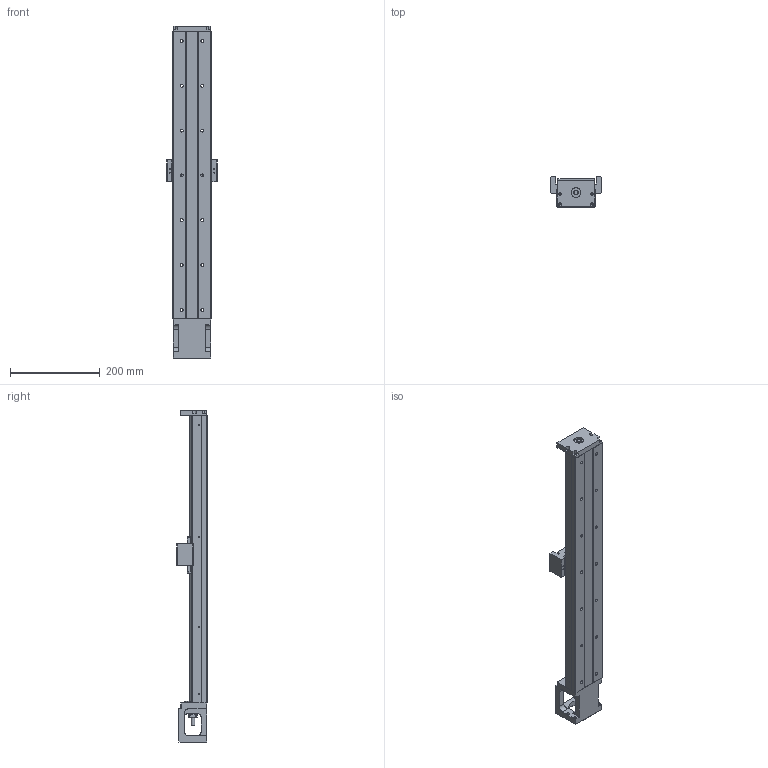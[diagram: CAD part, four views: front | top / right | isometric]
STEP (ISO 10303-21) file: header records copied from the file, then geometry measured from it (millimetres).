
FILE_DESCRIPTION(/* description */ (''),/* implementation_level */ '2;1');
FILE_NAME(/* name */ '46S-640.stp',/* time_stamp */ '2016-12-20T14:07:24+08:00',/* author */ (''),/* organization */ (''),/* preprocessor_version */ 'ST-DEVELOPER v11',/* originating_system */ 'SIEMENS UGS NX 6.0',/* authorisation */ '');
FILE_SCHEMA (('AUTOMOTIVE_DESIGN { 1 0 10303 214 1 1 1 1 }'));
Length unit declared in the file: millimetre
Products named in the file (1): model4
Bounding box: 112 x 68 x 740 mm (x, y, z)
Volume: 1564745.5 mm3; surface area: 348736.1 mm2
Topology: 6 solids, 17 shells, 696 faces, 1819 edges, 1200 vertices
Faces by surface type: plane 328, cylinder 248, cone 59, bspline 53, torus 8
Full cylindrical faces by diameter (mm): 2 x2, 2.11 x2, 2.15 x8, 2.42 x6, 2.5 x4, 3 x4, 3.2 x4, 3.3 x12, 3.4 x8, 4 x2, 4.2 x4, 4.5 x8, 5 x8, 6 x8, 6.35 x2, 6.6 x14, 6.7 x2, 8 x1, 8.7 x4, 9.6 x1, 10 x3, 11 x14, 12 x1, 14.95 x2, 15 x1, 16 x2, 22 x3, 27.5 x1, 44 x1, 50 x1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
Entity records: 31629 total; most frequent: CARTESIAN_POINT 13396, ORIENTED_EDGE 3120, DIRECTION 3004, EDGE_CURVE 1560, VERTEX_POINT 1125, AXIS2_PLACEMENT_3D 1120, EDGE_LOOP 987, LINE 764
